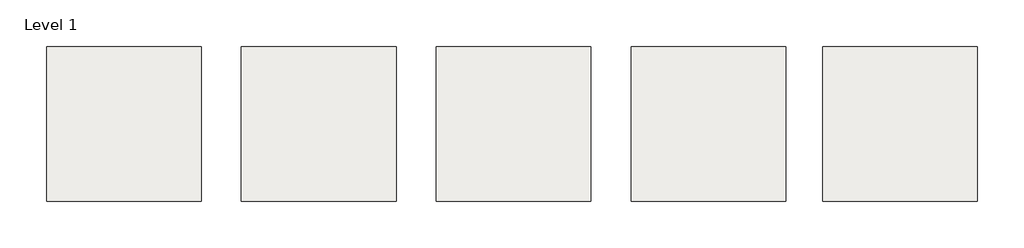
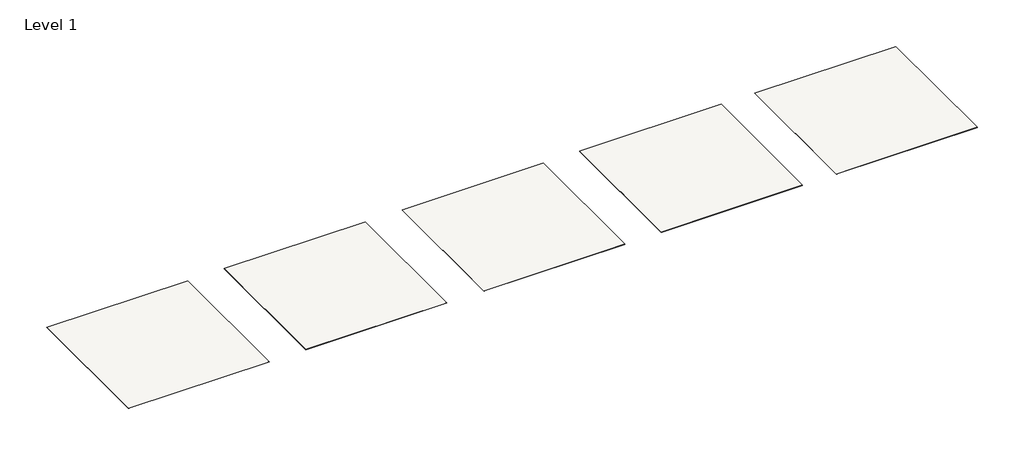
# One storey: 5 slabs.
"""IFC4 building model written with IfcOpenShell, lengths in millimetres."""

from ifc_helpers import new_model, si_unit, frame, origin, place, context, project, spatial, polyline, outline, extrude, element, save

model = new_model("IFC4")

# Units and contexts
model_context = context("Model", 3, world=origin())
ifc_project = project(units=[si_unit("LENGTHUNIT", "METRE", prefix="MILLI")], contexts=[model_context])

# Site, building, storey
site = spatial("IfcSite", under=ifc_project)
building = spatial("IfcBuilding", under=site)
storey = spatial("IfcBuildingStorey", under=building, Name="Level 1", Elevation=0.0)

# Slabs
placement = place(None, origin())
element("IfcSlab", 1, ObjectType="Thesize_Neolith_3mm+- Zaha Stone - 3600x1200 mm-Silk", at=placement, inside=storey, context=model_context, shape_type="SweptSolid", body=[
    extrude(outline(polyline([(46732.6076717, -163857.477561), (46732.6076717, -168857.477561), (41732.6076717, -168857.477561), (41732.6076717, -163857.477561), (46732.6076717, -163857.477561)])), frame((0.0, 0.0, -3.0), z_axis=(0.0, 0.0, 1.0), x_axis=(1.0, 0.0, 0.0)), (0.0, 0.0, 1.0), 3.0),
])
element("IfcSlab", 2, ObjectType="Thesize_Neolith_6mm+ - Zaha Stone - 3200x1500 mm-Silk", at=placement, inside=storey, context=model_context, shape_type="SweptSolid", body=[
    extrude(outline(polyline([(53032.6076717, -163857.477561), (53032.6076717, -168857.477561), (48032.6076717, -168857.477561), (48032.6076717, -163857.477561), (53032.6076717, -163857.477561)])), frame((0.0, 0.0, -6.0), z_axis=(0.0, 0.0, 1.0), x_axis=(1.0, 0.0, 0.0)), (0.0, 0.0, 1.0), 6.0),
])
element("IfcSlab", 3, ObjectType="Thesize_Neolith_12mm - Zaha Stone - 3200x1600 mm-Silk", at=placement, inside=storey, context=model_context, shape_type="SweptSolid", body=[
    extrude(outline(polyline([(59332.6076717, -163857.477561), (59332.6076717, -168857.477561), (54332.6076717, -168857.477561), (54332.6076717, -163857.477561), (59332.6076717, -163857.477561)])), frame((0.0, 0.0, -12.0), z_axis=(0.0, 0.0, 1.0), x_axis=(1.0, 0.0, 0.0)), (0.0, 0.0, 1.0), 12.0),
])
element("IfcSlab", 4, ObjectType="Thesize_Neolith_20mm - Zaha Stone - 3200x1600 mm-Silk", at=placement, inside=storey, context=model_context, shape_type="SweptSolid", body=[
    extrude(outline(polyline([(65632.6076717, -163857.4775611), (65632.6076717, -168857.477561), (60632.6076717, -168857.477561), (60632.6076717, -163857.4775611), (65632.6076717, -163857.4775611)])), frame((0.0, 0.0, -20.0), z_axis=(0.0, 0.0, 1.0), x_axis=(1.0, 0.0, 0.0)), (0.0, 0.0, 1.0), 20.0),
])
element("IfcSlab", 5, ObjectType="Thesize_Neolith_6mm- Zaha Stone - 2600x1200 mm-Silk", at=placement, inside=storey, context=model_context, shape_type="SweptSolid", body=[
    extrude(outline(polyline([(71832.6076717, -163857.4775611), (71832.6076717, -168857.477561), (66832.6076717, -168857.477561), (66832.6076717, -163857.4775611), (71832.6076717, -163857.4775611)])), frame((0.0, 0.0, -6.0), z_axis=(0.0, 0.0, 1.0), x_axis=(1.0, 0.0, 0.0)), (0.0, 0.0, 1.0), 6.0),
])

save(model, "model.ifc")
